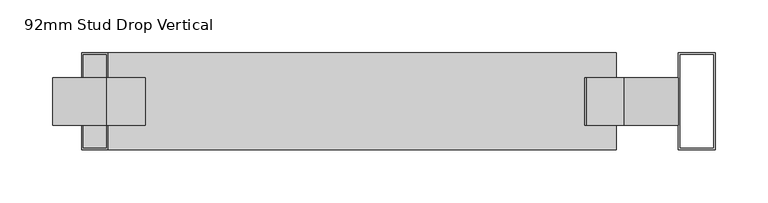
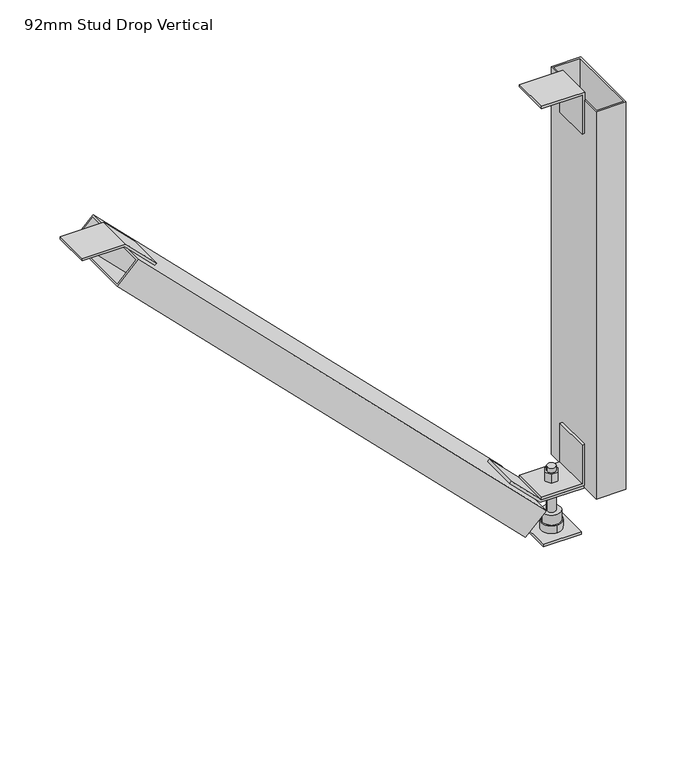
"""IFC4 building model written with IfcOpenShell, lengths in millimetres: beam geometry, Vertibrace Boxstud Brace : 92mm Stud Drop Vertical."""

from ifc_helpers import new_model, si_unit, frame, origin, origin_with_axes, place, context, project, spatial, polyline, circle_curve, outline, extrude, faceted_brep, source, transform, mapped, element, save
from ifc_brep_helpers import plane_surface, cylinder_surface, advanced_brep


def beam_92mm_stud_drop_vertical_eabdd61b(model_context):
    return source(origin(), model_context, "Body", "SolidModel", [
        extrude(outline(polyline([(547.0013294, 23.235654), (498.7734408, 23.235654), (498.7734408, 26.2343246), (550.0, 26.2343246), (550.0, -24.9922346), (547.0013294, -24.9922346), (547.0013294, 23.235654)])), frame((0.0, -22.5, 0.0), z_axis=(0.0, 1.0, 0.0), x_axis=(0.0, 0.0, 1.0)), (0.0, 0.0, 1.0), 45.0),
        extrude(outline(polyline([(547.0013294, -516.535654), (511.6569723, -481.1912969), (513.7773526, -479.0709166), (550.0, -515.293564), (550.0, -566.5201232), (547.0013294, -566.5201232), (547.0013294, -516.535654)])), frame((0.0, -22.5, 0.0), z_axis=(0.0, 1.0, 0.0), x_axis=(0.0, 0.0, 1.0)), (0.0, 0.0, 1.0), 45.0),
        extrude(outline(polyline([(62.6986706, 23.235654), (62.6986706, -24.9922346), (59.7, -24.9922346), (59.7, 26.2343246), (110.9265592, 26.2343246), (110.9265592, 23.235654), (62.6986706, 23.235654)])), frame((0.0, -22.5, 0.0), z_axis=(0.0, 1.0, 0.0), x_axis=(0.0, 0.0, 1.0)), (0.0, 0.0, 1.0), 45.0),
        extrude(outline(polyline([(59.6986706, -24.9922346), (95.0430277, -60.3365917), (92.9226474, -62.456972), (56.7, -26.2343246), (56.7, 24.9922346), (59.6986706, 24.9922346), (59.6986706, -24.9922346)])), frame((0.0, -22.5, 0.0), z_axis=(0.0, 1.0, 0.0), x_axis=(0.0, 0.0, 1.0)), (0.0, 0.0, 1.0), 45.0),
        extrude(outline(polyline([(22.5, 22.5), (22.5, -22.5), (-22.5, -22.5), (-22.5, 22.5), (22.5, 22.5)])), origin_with_axes(), (0.0, 0.0, 1.0), 3.0),
        advanced_brep(
        [(-5.0, 0.0, -10.0), (5.0, 0.0, -10.0), (-5.0, 0.0, 80.0), (5.0, 0.0, 80.0), (5.0, 0.0, 3.0), (-5.0, 0.0, 3.0), (-5.0, 0.0, 74.4), (5.0, 0.0, 74.4), (-5.0, 0.0, 25.0), (5.0, 0.0, 25.0), (5.0, 0.0, 50.0), (-5.0, 0.0, 50.0), (5.0, 0.0, 62.7), (-5.0, 0.0, 62.7), (-5.0, 0.0, 56.7), (5.0, 0.0, 56.7), (-10.5, 0.0, 25.0), (10.5, 0.0, 25.0), (-10.5, 0.0, 13.0), (10.5, 0.0, 13.0), (0.0, -12.0, 13.0), (0.0, 12.0, 13.0), (3.75, 6.4951905, 74.4), (-3.75, 6.4951905, 74.4), (-7.5, 0.0, 74.4), (-3.75, -6.4951905, 74.4), (3.75, -6.4951905, 74.4), (7.5, 0.0, 74.4), (3.75, 6.4951905, 62.7), (7.5, 0.0, 62.7), (3.75, -6.4951905, 62.7), (-3.75, -6.4951905, 62.7), (-7.5, 0.0, 62.7), (-3.75, 6.4951905, 62.7), (-10.9696551, 0.0, 56.7), (-5.4848276, -9.5, 56.7), (5.4848276, -9.5, 56.7), (10.9696551, 0.0, 56.7), (5.4848276, 9.5, 56.7), (-5.4848276, 9.5, 56.7), (-10.9696551, 0.0, 50.0), (-5.4848276, 9.5, 50.0), (5.4848276, 9.5, 50.0), (10.9696551, 0.0, 50.0), (5.4848276, -9.5, 50.0), (-5.4848276, -9.5, 50.0), (0.0, -12.0, 3.0), (0.0, 12.0, 3.0)],
        [
            (0, 1, circle_curve(frame((0.0, 0.0, -10.0), z_axis=(0.0, 0.0, -1.0), x_axis=(1.0, 0.0, 0.0)), 5.0)),
            (1, 0, circle_curve(frame((0.0, 0.0, -10.0), z_axis=(0.0, 0.0, -1.0), x_axis=(1.0, 0.0, 0.0)), 5.0)),
            (2, 3, circle_curve(frame((0.0, 0.0, 80.0), z_axis=(0.0, 0.0, 1.0), x_axis=(1.0, 0.0, 0.0)), 5.0)),
            (3, 2, circle_curve(frame((0.0, 0.0, 80.0), z_axis=(0.0, 0.0, 1.0), x_axis=(1.0, 0.0, 0.0)), 5.0)),
            (1, 4),
            (4, 5, circle_curve(frame((0.0, 0.0, 3.0), z_axis=(0.0, 0.0, -1.0), x_axis=(1.0, 0.0, 0.0)), 5.0)),
            (5, 0),
            (2, 6),
            (6, 7, circle_curve(frame((0.0, 0.0, 74.4), z_axis=(0.0, 0.0, 1.0), x_axis=(1.0, 0.0, 0.0)), 5.0)),
            (7, 3),
            (8, 9, circle_curve(frame((0.0, 0.0, 25.0), z_axis=(0.0, 0.0, 1.0), x_axis=(1.0, 0.0, 0.0)), 5.0)),
            (9, 10),
            (10, 11, circle_curve(frame((0.0, 0.0, 50.0), z_axis=(0.0, 0.0, -1.0), x_axis=(1.0, 0.0, 0.0)), 5.0)),
            (11, 8),
            (12, 13, circle_curve(frame((0.0, 0.0, 62.7), z_axis=(0.0, 0.0, -1.0), x_axis=(1.0, 0.0, 0.0)), 5.0)),
            (13, 14),
            (14, 15, circle_curve(frame((0.0, 0.0, 56.7), z_axis=(0.0, 0.0, 1.0), x_axis=(1.0, 0.0, 0.0)), 5.0)),
            (15, 12),
            (5, 4, circle_curve(frame((0.0, 0.0, 3.0), z_axis=(0.0, 0.0, -1.0), x_axis=(1.0, 0.0, 0.0)), 5.0)),
            (7, 6, circle_curve(frame((0.0, 0.0, 74.4), z_axis=(0.0, 0.0, 1.0), x_axis=(1.0, 0.0, 0.0)), 5.0)),
            (9, 8, circle_curve(frame((0.0, 0.0, 25.0), z_axis=(0.0, 0.0, 1.0), x_axis=(1.0, 0.0, 0.0)), 5.0)),
            (11, 10, circle_curve(frame((0.0, 0.0, 50.0), z_axis=(0.0, 0.0, -1.0), x_axis=(1.0, 0.0, 0.0)), 5.0)),
            (13, 12, circle_curve(frame((0.0, 0.0, 62.7), z_axis=(0.0, 0.0, -1.0), x_axis=(1.0, 0.0, 0.0)), 5.0)),
            (15, 14, circle_curve(frame((0.0, 0.0, 56.7), z_axis=(0.0, 0.0, 1.0), x_axis=(1.0, 0.0, 0.0)), 5.0)),
            (16, 17, circle_curve(frame((0.0, 0.0, 25.0), z_axis=(0.0, 0.0, 1.0), x_axis=(1.0, 0.0, 0.0)), 10.5)),
            (17, 16, circle_curve(frame((0.0, 0.0, 25.0), z_axis=(0.0, 0.0, 1.0), x_axis=(1.0, 0.0, 0.0)), 10.5)),
            (16, 18),
            (18, 19, circle_curve(frame((0.0, 0.0, 13.0), z_axis=(0.0, 0.0, 1.0), x_axis=(1.0, 0.0, 0.0)), 10.5)),
            (19, 17),
            (19, 18, circle_curve(frame((0.0, 0.0, 13.0), z_axis=(0.0, 0.0, 1.0), x_axis=(1.0, 0.0, 0.0)), 10.5)),
            (20, 21, circle_curve(frame((0.0, 0.0, 13.0), z_axis=(0.0, 0.0, 1.0), x_axis=(0.0, 1.0, 0.0)), 12.0)),
            (21, 20, circle_curve(frame((0.0, 0.0, 13.0), z_axis=(0.0, 0.0, 1.0), x_axis=(0.0, 1.0, 0.0)), 12.0)),
            (22, 23),
            (23, 24),
            (24, 25),
            (25, 26),
            (26, 27),
            (27, 22),
            (28, 29),
            (29, 30),
            (30, 31),
            (31, 32),
            (32, 33),
            (33, 28),
            (22, 28),
            (33, 23),
            (32, 24),
            (31, 25),
            (30, 26),
            (29, 27),
            (34, 35),
            (35, 36),
            (36, 37),
            (37, 38),
            (38, 39),
            (39, 34),
            (40, 41),
            (41, 42),
            (42, 43),
            (43, 44),
            (44, 45),
            (45, 40),
            (34, 40),
            (45, 35),
            (44, 36),
            (43, 37),
            (42, 38),
            (41, 39),
            (46, 47, circle_curve(frame((0.0, 0.0, 3.0), z_axis=(0.0, 0.0, -1.0), x_axis=(0.0, 1.0, 0.0)), 12.0)),
            (47, 46, circle_curve(frame((0.0, 0.0, 3.0), z_axis=(0.0, 0.0, -1.0), x_axis=(0.0, 1.0, 0.0)), 12.0)),
            (47, 21),
            (20, 46),
        ],
        [
            plane_surface(frame((5.0, 0.0, -10.0), z_axis=(0.0, 0.0, -1.0), x_axis=(0.0, -1.0, 0.0))),
            plane_surface(frame((5.0, 0.0, 80.0), z_axis=(0.0, 0.0, 1.0), x_axis=(0.0, 1.0, 0.0))),
            cylinder_surface(frame((0.0, 0.0, -10.0), z_axis=(0.0, 0.0, 1.0), x_axis=(1.0, 0.0, 0.0)), 5.0),
            plane_surface(frame((10.5, 0.0, 25.0), z_axis=(0.0, 0.0, 1.0), x_axis=(0.0, 1.0, 0.0))),
            cylinder_surface(frame((0.0, 0.0, 13.0), z_axis=(0.0, 0.0, 1.0), x_axis=(1.0, 0.0, 0.0)), 10.5),
            plane_surface(frame((0.0, 12.0, 13.0), z_axis=(0.0, 0.0, 1.0), x_axis=(-1.0, 0.0, 0.0))),
            plane_surface(frame((3.75, 6.4951905, 74.4), z_axis=(0.0, 0.0, 1.0), x_axis=(-1.0, 0.0, 0.0))),
            plane_surface(frame((3.75, 6.4951905, 62.7), z_axis=(0.0, 0.0, -1.0), x_axis=(1.0, 0.0, 0.0))),
            plane_surface(frame((3.75, 6.4951905, 74.4), z_axis=(0.0, 1.0, 0.0), x_axis=(0.0, 0.0, -1.0))),
            plane_surface(frame((-3.75, 6.4951905, 74.4), z_axis=(-0.866025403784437, 0.5000000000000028, 0.0), x_axis=(0.0, 0.0, -1.0))),
            plane_surface(frame((-7.5, 0.0, 74.4), z_axis=(-0.8660254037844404, -0.4999999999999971, 0.0), x_axis=(0.0, 0.0, -1.0))),
            plane_surface(frame((-3.75, -6.4951905, 74.4), z_axis=(0.0, -1.0, 0.0), x_axis=(0.0, 0.0, -1.0))),
            plane_surface(frame((3.75, -6.4951905, 74.4), z_axis=(0.8660254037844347, -0.500000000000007, 0.0), x_axis=(0.0, 0.0, -1.0))),
            plane_surface(frame((7.5, 0.0, 74.4), z_axis=(0.8660254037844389, 0.49999999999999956, 0.0), x_axis=(0.0, 0.0, -1.0))),
            plane_surface(frame((-10.9696551, 0.0, 56.7), z_axis=(0.0, 0.0, 1.0), x_axis=(0.49999999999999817, -0.8660254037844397, 0.0))),
            plane_surface(frame((-10.9696551, 0.0, 50.0), z_axis=(0.0, 0.0, -1.0), x_axis=(-0.49999999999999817, 0.8660254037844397, 0.0))),
            plane_surface(frame((-10.9696551, 0.0, 56.7), z_axis=(-0.8660254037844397, -0.49999999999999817, 0.0), x_axis=(0.0, 0.0, -1.0))),
            plane_surface(frame((-5.4848276, -9.5, 56.7), z_axis=(0.0, -1.0, 0.0), x_axis=(0.0, 0.0, -1.0))),
            plane_surface(frame((5.4848276, -9.5, 56.7), z_axis=(0.8660254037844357, -0.5000000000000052, 0.0), x_axis=(0.0, 0.0, -1.0))),
            plane_surface(frame((10.9696551, 0.0, 56.7), z_axis=(0.8660254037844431, 0.49999999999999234, 0.0), x_axis=(0.0, 0.0, -1.0))),
            plane_surface(frame((5.4848276, 9.5, 56.7), z_axis=(0.0, 1.0, 0.0), x_axis=(0.0, 0.0, -1.0))),
            plane_surface(frame((-5.4848276, 9.5, 56.7), z_axis=(-0.866025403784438, 0.5000000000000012, 0.0), x_axis=(0.0, 0.0, -1.0))),
            plane_surface(frame((0.0, 12.0, 3.0), z_axis=(0.0, 0.0, -1.0), x_axis=(1.0, 0.0, 0.0))),
            cylinder_surface(frame((0.0, 0.0, 3.0), z_axis=(0.0, 0.0, 1.0), x_axis=(0.0, 1.0, 0.0)), 12.0),
        ],
        [
            (0, [[1, 2]]),
            (1, [[3, 4]]),
            (2, [[-2, 5, 6, 7]]),
            (2, [[-3, 8, 9, 10]]),
            (2, [[11, 12, 13, 14]]),
            (2, [[15, 16, 17, 18]]),
            (2, [[-1, -7, 19, -5]]),
            (2, [[-4, -10, 20, -8]]),
            (2, [[21, -14, 22, -12]]),
            (2, [[23, -18, 24, -16]]),
            (3, [[25, 26], [-11, -21]]),
            (4, [[-25, 27, 28, 29]]),
            (4, [[-26, -29, 30, -27]]),
            (5, [[31, 32], [-28, -30]]),
            (6, [[33, 34, 35, 36, 37, 38], [-9, -20]]),
            (7, [[39, 40, 41, 42, 43, 44], [-15, -23]]),
            (8, [[-33, 45, -44, 46]]),
            (9, [[-34, -46, -43, 47]]),
            (10, [[-35, -47, -42, 48]]),
            (11, [[-36, -48, -41, 49]]),
            (12, [[-37, -49, -40, 50]]),
            (13, [[-38, -50, -39, -45]]),
            (14, [[51, 52, 53, 54, 55, 56], [-17, -24]]),
            (15, [[57, 58, 59, 60, 61, 62], [-13, -22]]),
            (16, [[-51, 63, -62, 64]]),
            (17, [[-52, -64, -61, 65]]),
            (18, [[-53, -65, -60, 66]]),
            (19, [[-54, -66, -59, 67]]),
            (20, [[-55, -67, -58, 68]]),
            (21, [[-56, -68, -57, -63]]),
            (22, [[69, 70], [-6, -19]]),
            (23, [[-70, 71, -31, 72]]),
            (23, [[-69, -72, -32, -71]]),
        ],
    ),
        extrude(outline(polyline([(26.2343246, 46.0), (61.2343246, 46.0), (61.2343246, -46.0), (26.2343246, -46.0), (26.2343246, 46.0)]), holes=[polyline([(59.2343246, -44.0), (59.2343246, 44.0), (28.2343246, 44.0), (28.2343246, -44.0), (59.2343246, -44.0)])]), frame((0.0, 0.0, 56.7), z_axis=(0.0, 0.0, 1.0), x_axis=(1.0, 0.0, 0.0)), (0.0, 0.0, 1.0), 483.3),
        faceted_brep([(-32.5343246, -46.0, 63.0), (-57.283062, -46.0, 38.2512627), (-57.283062, -45.0, 38.2512627), (-43.5343246, -45.0, 52.0), (-43.5343246, -44.0, 52.0), (-33.9485382, -44.0, 61.5857864), (-33.9485382, 44.0, 61.5857864), (-43.5343246, 44.0, 52.0), (-43.5343246, 46.0, 52.0), (-32.5343246, 46.0, 63.0), (-514.4883773, -46.0, 544.9540527), (-514.4883773, 46.0, 544.9540527), (-539.2371147, 46.0, 520.2053154), (-539.2371147, -46.0, 520.2053154), (-537.8229011, 44.0, 521.6195289), (-515.9025909, 44.0, 543.5398392), (-515.9025909, -44.0, 543.5398392), (-537.8229011, -44.0, 521.6195289), (-71.0317993, 46.0, 52.0), (-71.0317993, -45.0, 52.0), (-68.2033722, 44.0, 52.0), (-68.2033722, -44.0, 52.0)], [[[0, 1, 2, 3, 4, 5, 6, 7, 8, 9]], [[10, 11, 12, 13], [14, 15, 16, 17]], [[1, 0, 10, 13]], [[13, 12, 18, 19, 2, 1]], [[12, 11, 9, 8, 18]], [[0, 9, 11, 10]], [[19, 3, 2]], [[3, 19, 18, 8, 7, 20, 21, 4]], [[14, 17, 21, 20]], [[17, 16, 5, 4, 21]], [[6, 5, 16, 15]], [[15, 14, 20, 7, 6]]]),
    ])


if __name__ == "__main__":
    model = new_model("IFC4")
    model_context = context("Model", 3, world=origin())
    ifc_project = project(units=[si_unit("LENGTHUNIT", "METRE", prefix="MILLI")], contexts=[model_context])
    site = spatial("IfcSite", under=ifc_project)
    building = spatial("IfcBuilding", under=site)
    placement = place(None, origin())
    beam_92mm_stud_drop_vertical_shape = beam_92mm_stud_drop_vertical_eabdd61b(model_context)
    element("IfcBeam", 1, ObjectType="Vertibrace Boxstud Brace : 92mm Stud Drop Vertical", at=placement, inside=building, context=model_context, shape_type="MappedRepresentation", body=[
        mapped(beam_92mm_stud_drop_vertical_shape, transform((0.0, 0.0, 0.0), x_axis=(1.0, 0.0, 0.0), y_axis=(0.0, 1.0, 0.0), z_axis=(0.0, 0.0, 1.0))),
    ])
    save(model, "model.ifc")
